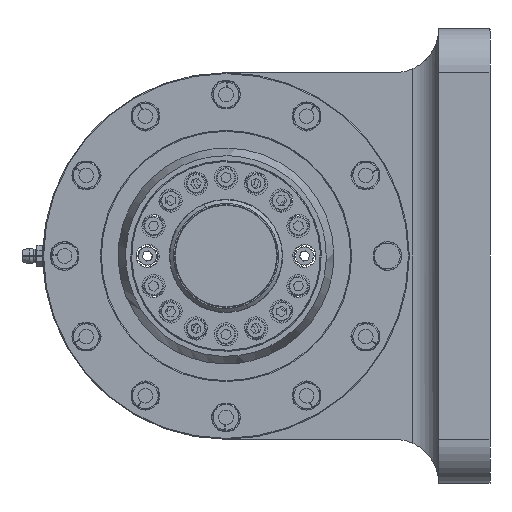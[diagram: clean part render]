
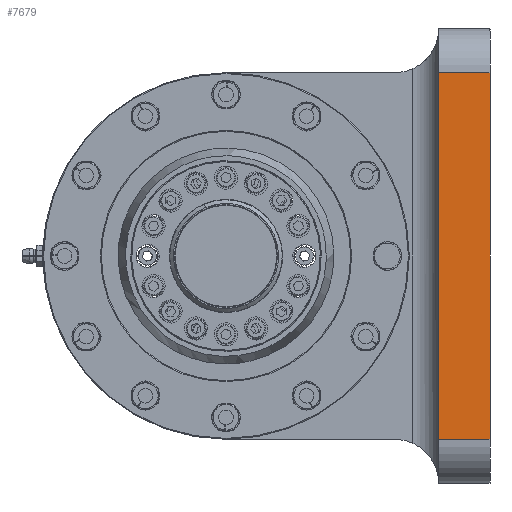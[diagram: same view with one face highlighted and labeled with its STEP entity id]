
A CAD part, left-side view. The second image highlights one B-rep face of the part: STEP entity #7679.
In plain terms, the highlighted planar face has unit normal (-1, 0, 0).
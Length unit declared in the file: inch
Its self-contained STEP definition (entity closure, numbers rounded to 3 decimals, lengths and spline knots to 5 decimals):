
#1566 = VERTEX_POINT ( 'NONE', #27832 ) ;
#1592 = EDGE_CURVE ( 'NONE', #1566, #53851, #62064, .T. ) ;
#2718 = ORIENTED_EDGE ( 'NONE', *, *, #43618, .T. ) ;
#3387 = ORIENTED_EDGE ( 'NONE', *, *, #1592, .T. ) ;
#5803 = VECTOR ( 'NONE', #48844, 39.37008 ) ;
#7185 = DIRECTION ( 'NONE',  ( 0., 0., -1. ) ) ;
#7314 = DIRECTION ( 'NONE',  ( 0., 0., 1. ) ) ;
#7679 = ADVANCED_FACE ( 'NONE', ( #60355 ), #31271, .F. ) ;
#9842 = LINE ( 'NONE', #29314, #5803 ) ;
#12411 = DIRECTION ( 'NONE',  ( 0., 1., 0. ) ) ;
#12731 = VECTOR ( 'NONE', #7185, 39.37008 ) ;
#18235 = CARTESIAN_POINT ( 'NONE',  ( -17.7995, -3.625, 3.125 ) ) ;
#20501 = CARTESIAN_POINT ( 'NONE',  ( -17.7995, -4.5, -3.125 ) ) ;
#27832 = CARTESIAN_POINT ( 'NONE',  ( -17.7995, -4.5, 3.125 ) ) ;
#28466 = VERTEX_POINT ( 'NONE', #20501 ) ;
#28970 = VERTEX_POINT ( 'NONE', #45394 ) ;
#29314 = CARTESIAN_POINT ( 'NONE',  ( -17.7995, -4.5, -3.125 ) ) ;
#31271 = PLANE ( 'NONE',  #41677 ) ;
#31429 = LINE ( 'NONE', #50976, #12731 ) ;
#31539 = LINE ( 'NONE', #51087, #49223 ) ;
#33114 = EDGE_CURVE ( 'NONE', #28466, #1566, #31539, .T. ) ;
#34227 = EDGE_LOOP ( 'NONE', ( #39412, #2718, #58335, #3387 ) ) ;
#36665 = CARTESIAN_POINT ( 'NONE',  ( -17.7995, -2.875, 3.875 ) ) ;
#37712 = DIRECTION ( 'NONE',  ( 0., 1., 0. ) ) ;
#39412 = ORIENTED_EDGE ( 'NONE', *, *, #47838, .T. ) ;
#41677 = AXIS2_PLACEMENT_3D ( 'NONE', #36665, #56214, #12411 ) ;
#43618 = EDGE_CURVE ( 'NONE', #28970, #28466, #9842, .T. ) ;
#45199 = VECTOR ( 'NONE', #37712, 39.37008 ) ;
#45383 = CARTESIAN_POINT ( 'NONE',  ( -17.7995, -3.625, 3.125 ) ) ;
#45394 = CARTESIAN_POINT ( 'NONE',  ( -17.7995, -3.625, -3.125 ) ) ;
#47838 = EDGE_CURVE ( 'NONE', #53851, #28970, #31429, .T. ) ;
#48844 = DIRECTION ( 'NONE',  ( 0., -1., 0. ) ) ;
#49223 = VECTOR ( 'NONE', #7314, 39.37008 ) ;
#50976 = CARTESIAN_POINT ( 'NONE',  ( -17.7995, -3.625, 3.875 ) ) ;
#51087 = CARTESIAN_POINT ( 'NONE',  ( -17.7995, -4.5, -3.875 ) ) ;
#53851 = VERTEX_POINT ( 'NONE', #45383 ) ;
#56214 = DIRECTION ( 'NONE',  ( 1., 0., 0. ) ) ;
#58335 = ORIENTED_EDGE ( 'NONE', *, *, #33114, .T. ) ;
#60355 = FACE_OUTER_BOUND ( 'NONE', #34227, .T. ) ;
#62064 = LINE ( 'NONE', #18235, #45199 ) ;
